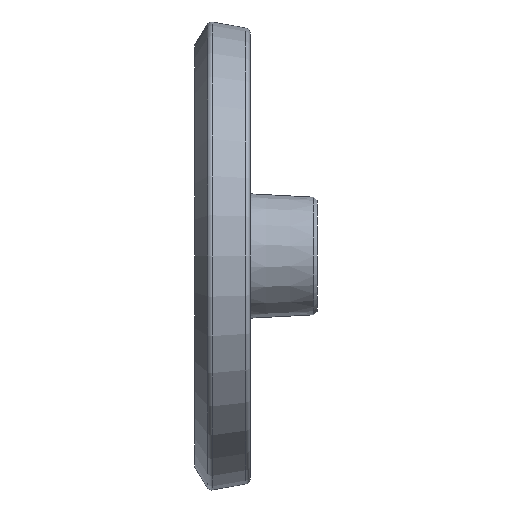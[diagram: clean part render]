
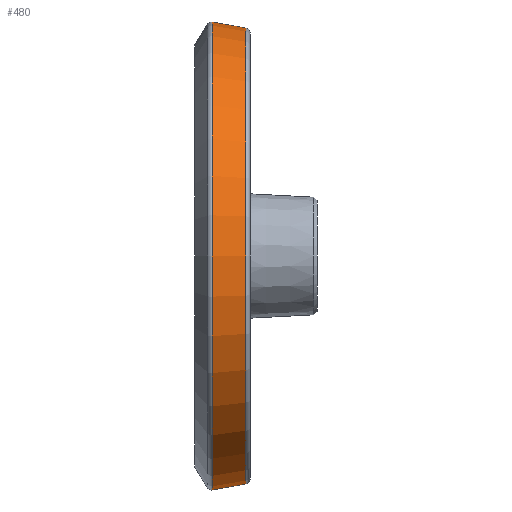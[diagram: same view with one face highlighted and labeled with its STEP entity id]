
A CAD part, front view. The second image highlights one B-rep face of the part: STEP entity #480.
In plain terms, the highlighted conical face has half-angle 10 degrees and reference radius 67.832 mm.
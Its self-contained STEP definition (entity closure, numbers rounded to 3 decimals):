
#23 = AXIS2_PLACEMENT_3D ( 'NONE', #3594, #3348, #2426 ) ;
#192 = VERTEX_POINT ( 'NONE', #368 ) ;
#301 = CIRCLE ( 'NONE', #1515, 69.821 ) ;
#304 = VECTOR ( 'NONE', #1087, 1000. ) ;
#368 = CARTESIAN_POINT ( 'NONE',  ( 13.26, 0., 68.051 ) ) ;
#395 = CARTESIAN_POINT ( 'NONE',  ( 13.26, 0., 0. ) ) ;
#464 = LINE ( 'NONE', #2620, #304 ) ;
#469 = VERTEX_POINT ( 'NONE', #2038 ) ;
#480 = ADVANCED_FACE ( 'NONE', ( #1813 ), #1697, .T. ) ;
#580 = LINE ( 'NONE', #3307, #2550 ) ;
#839 = DIRECTION ( 'NONE',  ( -0.985, 0., 0.174 ) ) ;
#936 = VERTEX_POINT ( 'NONE', #3454 ) ;
#1046 = DIRECTION ( 'NONE',  ( 0., 0., -1. ) ) ;
#1087 = DIRECTION ( 'NONE',  ( -0.985, 0., -0.174 ) ) ;
#1153 = ORIENTED_EDGE ( 'NONE', *, *, #3339, .T. ) ;
#1388 = DIRECTION ( 'NONE',  ( 1., 0., 0. ) ) ;
#1515 = AXIS2_PLACEMENT_3D ( 'NONE', #3820, #1388, #1046 ) ;
#1697 = CONICAL_SURFACE ( 'NONE', #23, 67.832, 0.175 ) ;
#1705 = ORIENTED_EDGE ( 'NONE', *, *, #3031, .T. ) ;
#1776 = EDGE_CURVE ( 'NONE', #469, #2382, #301, .T. ) ;
#1813 = FACE_OUTER_BOUND ( 'NONE', #3085, .T. ) ;
#1963 = ORIENTED_EDGE ( 'NONE', *, *, #1776, .T. ) ;
#2038 = CARTESIAN_POINT ( 'NONE',  ( 3.221, 0., 69.821 ) ) ;
#2225 = EDGE_CURVE ( 'NONE', #936, #2382, #464, .T. ) ;
#2382 = VERTEX_POINT ( 'NONE', #2740 ) ;
#2426 = DIRECTION ( 'NONE',  ( 0., 0., 1. ) ) ;
#2543 = ORIENTED_EDGE ( 'NONE', *, *, #2225, .F. ) ;
#2546 = DIRECTION ( 'NONE',  ( 0., 0., -1. ) ) ;
#2550 = VECTOR ( 'NONE', #839, 1000. ) ;
#2620 = CARTESIAN_POINT ( 'NONE',  ( 14.5, 0., -67.832 ) ) ;
#2740 = CARTESIAN_POINT ( 'NONE',  ( 3.221, 0., -69.821 ) ) ;
#2750 = AXIS2_PLACEMENT_3D ( 'NONE', #395, #3143, #2546 ) ;
#3031 = EDGE_CURVE ( 'NONE', #936, #192, #3183, .T. ) ;
#3085 = EDGE_LOOP ( 'NONE', ( #2543, #1705, #1153, #1963 ) ) ;
#3143 = DIRECTION ( 'NONE',  ( -1., 0., 0. ) ) ;
#3183 = CIRCLE ( 'NONE', #2750, 68.051 ) ;
#3307 = CARTESIAN_POINT ( 'NONE',  ( 14.5, 0., 67.832 ) ) ;
#3339 = EDGE_CURVE ( 'NONE', #192, #469, #580, .T. ) ;
#3348 = DIRECTION ( 'NONE',  ( -1., 0., 0. ) ) ;
#3454 = CARTESIAN_POINT ( 'NONE',  ( 13.26, 0., -68.051 ) ) ;
#3594 = CARTESIAN_POINT ( 'NONE',  ( 14.5, 0., 0. ) ) ;
#3820 = CARTESIAN_POINT ( 'NONE',  ( 3.221, 0., 0. ) ) ;
